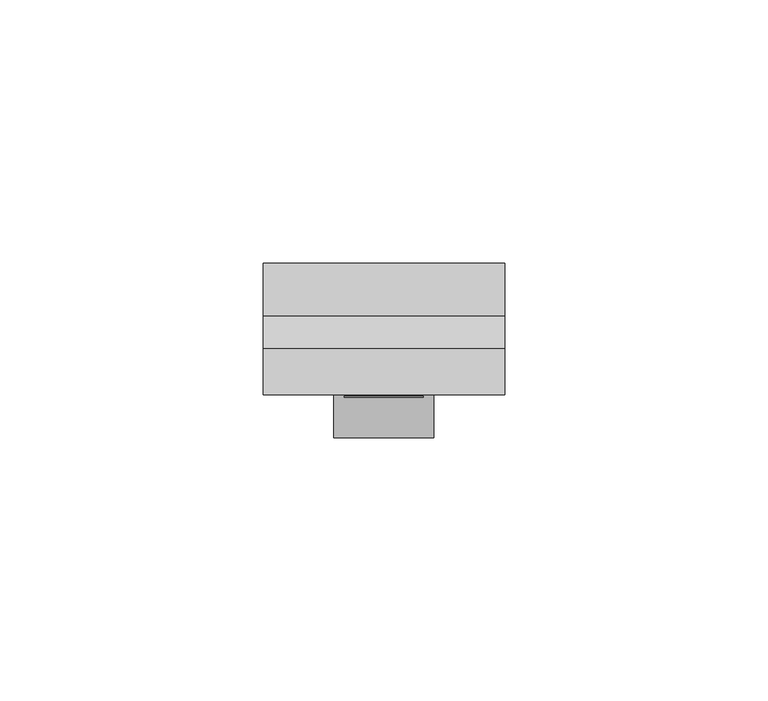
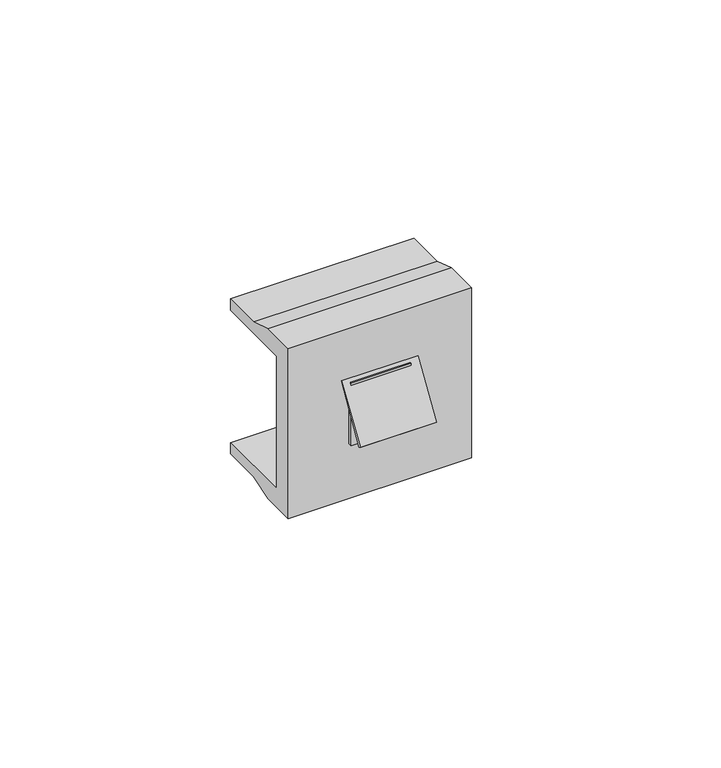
"""IFC4 building model written with IfcOpenShell, lengths in millimetres: proxy geometry, КНС_КомпьютерныеРозеткиRJ45_DKC : Белый."""

from ifc_helpers import new_model, si_unit, frame, origin, place, context, project, spatial, polyline, outline, extrude, faceted_brep, source, transform, mapped, element, save


def electrical_fixtures_2429b56e(model_context):
    return source(origin(), model_context, "Body", "SolidModel", [
        faceted_brep([(7.476911, -25.5, 8.25), (-7.523089, -25.5, 8.25), (-7.523089, -25.5, -8.25), (7.476911, -25.5, -8.25), (-1.6145417, -25.5, 6.436967), (0.5010209, -25.5, 6.436967), (1.7450646, -25.5, 5.1929232), (1.7450646, -25.5, -5.1929232), (0.5010209, -25.5, -6.436967), (-1.6145417, -25.5, -6.436967), (7.476911, -16.2913439, 8.25), (7.476911, -16.2913439, -8.25), (-7.523089, -16.2913439, -8.25), (-7.523089, -16.2913439, 8.25), (0.5010209, -20.0, 6.436967), (-1.6145417, -20.0, 6.436967), (-1.6145417, -20.0, -6.436967), (0.5010209, -20.0, -6.436967), (1.7450646, -20.0, -5.1929232), (1.7450646, -20.0, 5.1929232)], [[[0, 1, 2, 3], [4, 5, 6, 7, 8, 9]], [[10, 11, 12, 13]], [[1, 0, 10, 13]], [[2, 1, 13, 12]], [[3, 2, 12, 11]], [[0, 3, 11, 10]], [[14, 15, 16, 17, 18, 19]], [[15, 14, 5, 4]], [[16, 15, 4, 9]], [[17, 16, 9, 8]], [[18, 17, 8, 7]], [[19, 18, 7, 6]], [[14, 19, 6, 5]]]),
        extrude(outline(polyline([(-32.5, -3.7403811), (-33.1818268, -3.3467281), (-25.0, 9.25), (-32.5, -3.7403811)])), frame((-9.546178, 0.0, 0.0), z_axis=(1.0, 0.0, 0.0), x_axis=(0.0, 1.0, 0.0)), (0.0, 0.0, 1.0), 19.046178),
        extrude(outline(polyline([(-32.5, -3.7403811), (-33.1818268, -3.3467281), (-25.0, 9.25), (-32.5, -3.7403811)])), frame((-9.5, 0.0, 0.0), z_axis=(1.0, 0.0, 0.0), x_axis=(0.0, 1.0, 0.0)), (0.0, 0.0, 1.0), 19.0),
        faceted_brep([(7.476911, -25.5, 8.25), (-7.476911, -25.5, 8.25), (-7.476911, -25.5, -8.25), (7.476911, -25.5, -8.25), (-1.5683637, -25.5, 6.436967), (0.5010209, -25.5, 6.436967), (1.7450646, -25.5, 5.1929232), (1.7450646, -25.5, -5.1929232), (0.5010209, -25.5, -6.436967), (-1.5683637, -25.5, -6.436967), (7.476911, -16.2913439, 8.25), (7.476911, -16.2913439, -8.25), (-7.476911, -16.2913439, -8.25), (-7.476911, -16.2913439, 8.25), (0.5010209, -20.0, 6.436967), (-1.5683637, -20.0, 6.436967), (-1.5683637, -20.0, -6.436967), (0.5010209, -20.0, -6.436967), (1.7450646, -20.0, -5.1929232), (1.7450646, -20.0, 5.1929232)], [[[0, 1, 2, 3], [4, 5, 6, 7, 8, 9]], [[10, 11, 12, 13]], [[1, 0, 10, 13]], [[2, 1, 13, 12]], [[3, 2, 12, 11]], [[0, 3, 11, 10]], [[14, 15, 16, 17, 18, 19]], [[15, 14, 5, 4]], [[16, 15, 4, 9]], [[17, 16, 9, 8]], [[18, 17, 8, 7]], [[19, 18, 7, 6]], [[14, 19, 6, 5]]]),
        faceted_brep([(23.0, -25.0, 22.5), (-23.0, -25.0, 22.5), (-23.0, -25.0, -22.5), (23.0, -25.0, -22.5), (-1.6145417, -25.0, 6.436967), (0.5010209, -25.0, 6.436967), (1.7450646, -25.0, 5.1929232), (1.7450646, -25.0, -5.1929232), (0.5010209, -25.0, -6.436967), (-1.6145417, -25.0, -6.436967), (23.0, 0.0, 20.5), (23.0, 0.0, 17.5), (-23.0, 0.0, 17.5), (-23.0, 0.0, 20.5), (23.0, 0.0, -17.5), (23.0, 0.0, -20.5), (-23.0, 0.0, -20.5), (-23.0, 0.0, -17.5), (23.0, -16.2913439, 22.5), (-23.0, -16.2913439, 22.5), (-23.0, -10.0, 20.5), (-23.0, -20.0, 17.5), (-23.0, -20.0, -17.5), (-23.0, -10.0, -20.5), (-23.0, -16.2913439, -22.5), (23.0, -16.2913439, -22.5), (23.0, -10.0, -20.5), (23.0, -20.0, -17.5), (23.0, -20.0, 17.5), (23.0, -10.0, 20.5), (0.5010209, -20.0, 6.436967), (-1.6145417, -20.0, 6.436967), (-1.6145417, -20.0, -6.436967), (0.5010209, -20.0, -6.436967), (1.7450646, -20.0, -5.1929232), (1.7450646, -20.0, 5.1929232)], [[[0, 1, 2, 3], [4, 5, 6, 7, 8, 9]], [[10, 11, 12, 13]], [[14, 15, 16, 17]], [[1, 0, 18, 19]], [[2, 1, 19, 20, 13, 12, 21, 22, 17, 16, 23, 24]], [[3, 2, 24, 25]], [[0, 3, 25, 26, 15, 14, 27, 28, 11, 10, 29, 18]], [[22, 27, 14, 17]], [[28, 21, 12, 11]], [[27, 22, 21, 28], [30, 31, 32, 33, 34, 35]], [[20, 29, 10, 13]], [[29, 20, 19, 18]], [[26, 23, 16, 15]], [[23, 26, 25, 24]], [[30, 5, 4, 31]], [[31, 4, 9, 32]], [[32, 9, 8, 33]], [[33, 8, 7, 34]], [[34, 7, 6, 35]], [[5, 30, 35, 6]]]),
    ])


if __name__ == "__main__":
    model = new_model("IFC4")
    model_context = context("Model", 3, world=origin())
    ifc_project = project(units=[si_unit("LENGTHUNIT", "METRE", prefix="MILLI")], contexts=[model_context])
    site = spatial("IfcSite", under=ifc_project)
    building = spatial("IfcBuilding", under=site)
    placement = place(None, origin())
    electrical_fixtures_shape = electrical_fixtures_2429b56e(model_context)
    element("IfcBuildingElementProxy", 1, Name="КНС_КомпьютерныеРозеткиRJ45_DKC : Белый", ObjectType="КНС_КомпьютерныеРозеткиRJ45_DKC : Белый", at=placement, inside=building, context=model_context, shape_type="MappedRepresentation", body=[
        mapped(electrical_fixtures_shape, transform((0.0, 0.0, 0.0), x_axis=(1.0, 0.0, 0.0), y_axis=(0.0, 1.0, 0.0), z_axis=(0.0, 0.0, 1.0))),
    ])
    save(model, "model.ifc")
